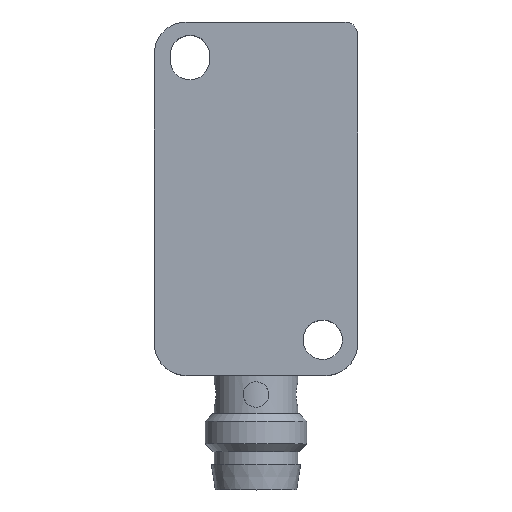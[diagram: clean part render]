
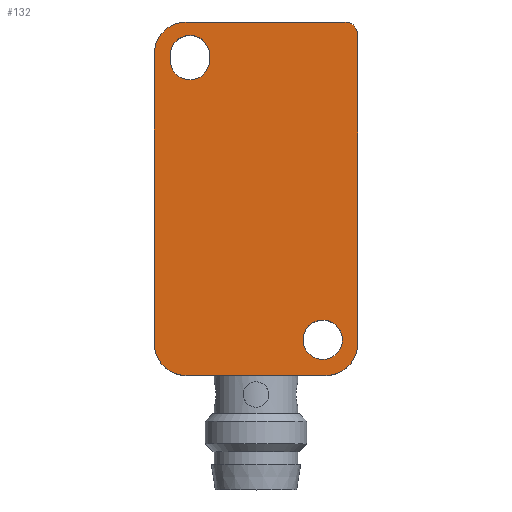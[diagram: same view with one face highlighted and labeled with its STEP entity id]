
A CAD part, top view. The second image highlights one B-rep face of the part: STEP entity #132.
In plain terms, the highlighted planar face has unit normal (0, 0, 1).
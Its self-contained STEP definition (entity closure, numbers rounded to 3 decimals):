
#132 = ADVANCED_FACE( '', ( #260, #261, #262 ), #263, .T. );
#260 = FACE_OUTER_BOUND( '', #390, .T. );
#261 = FACE_BOUND( '', #391, .T. );
#262 = FACE_BOUND( '', #392, .T. );
#263 = PLANE( '', #393 );
#390 = EDGE_LOOP( '', ( #819, #820, #821, #822, #823, #824, #825, #826 ) );
#391 = EDGE_LOOP( '', ( #827, #828 ) );
#392 = EDGE_LOOP( '', ( #829, #830, #831, #832 ) );
#393 = AXIS2_PLACEMENT_3D( '', #833, #834, #835 );
#819 = ORIENTED_EDGE( '', *, *, #969, .T. );
#820 = ORIENTED_EDGE( '', *, *, #948, .T. );
#821 = ORIENTED_EDGE( '', *, *, #952, .T. );
#822 = ORIENTED_EDGE( '', *, *, #955, .T. );
#823 = ORIENTED_EDGE( '', *, *, #958, .T. );
#824 = ORIENTED_EDGE( '', *, *, #961, .T. );
#825 = ORIENTED_EDGE( '', *, *, #964, .T. );
#826 = ORIENTED_EDGE( '', *, *, #967, .T. );
#827 = ORIENTED_EDGE( '', *, *, #837, .F. );
#828 = ORIENTED_EDGE( '', *, *, #945, .F. );
#829 = ORIENTED_EDGE( '', *, *, #943, .F. );
#830 = ORIENTED_EDGE( '', *, *, #934, .F. );
#831 = ORIENTED_EDGE( '', *, *, #938, .F. );
#832 = ORIENTED_EDGE( '', *, *, #941, .F. );
#833 = CARTESIAN_POINT( '', ( 0., 0., 5.1 ) );
#834 = DIRECTION( '', ( 0., 0., 1. ) );
#835 = DIRECTION( '', ( 1., 0., 0. ) );
#837 = EDGE_CURVE( '', #970, #973, #974, .T. );
#934 = EDGE_CURVE( '', #1133, #1135, #1136, .T. );
#938 = EDGE_CURVE( '', #1140, #1133, #1142, .T. );
#941 = EDGE_CURVE( '', #1145, #1140, #1147, .T. );
#943 = EDGE_CURVE( '', #1135, #1145, #1149, .T. );
#945 = EDGE_CURVE( '', #973, #970, #1151, .T. );
#948 = EDGE_CURVE( '', #1157, #1155, #1158, .T. );
#952 = EDGE_CURVE( '', #1155, #1162, #1164, .T. );
#955 = EDGE_CURVE( '', #1162, #1167, #1169, .T. );
#958 = EDGE_CURVE( '', #1167, #1172, #1174, .T. );
#961 = EDGE_CURVE( '', #1172, #1177, #1179, .T. );
#964 = EDGE_CURVE( '', #1177, #1182, #1184, .T. );
#967 = EDGE_CURVE( '', #1182, #1187, #1189, .T. );
#969 = EDGE_CURVE( '', #1187, #1157, #1191, .T. );
#970 = VERTEX_POINT( '', #1192 );
#973 = VERTEX_POINT( '', #1196 );
#974 = CIRCLE( '', #1197, 1.55 );
#1133 = VERTEX_POINT( '', #1670 );
#1135 = VERTEX_POINT( '', #1673 );
#1136 = LINE( '', #1674, #1675 );
#1140 = VERTEX_POINT( '', #1680 );
#1142 = CIRCLE( '', #1683, 1.55 );
#1145 = VERTEX_POINT( '', #1687 );
#1147 = LINE( '', #1690, #1691 );
#1149 = CIRCLE( '', #1693, 1.55 );
#1151 = CIRCLE( '', #1695, 1.55 );
#1155 = VERTEX_POINT( '', #1699 );
#1157 = VERTEX_POINT( '', #1702 );
#1158 = CIRCLE( '', #1703, 2.5 );
#1162 = VERTEX_POINT( '', #1709 );
#1164 = LINE( '', #1712, #1713 );
#1167 = VERTEX_POINT( '', #1716 );
#1169 = CIRCLE( '', #1719, 2.5 );
#1172 = VERTEX_POINT( '', #1723 );
#1174 = LINE( '', #1726, #1727 );
#1177 = VERTEX_POINT( '', #1730 );
#1179 = CIRCLE( '', #1733, 1. );
#1182 = VERTEX_POINT( '', #1737 );
#1184 = LINE( '', #1740, #1741 );
#1187 = VERTEX_POINT( '', #1744 );
#1189 = CIRCLE( '', #1747, 2.5 );
#1191 = LINE( '', #1750, #1751 );
#1192 = CARTESIAN_POINT( '', ( 6.8, 11.8, 5.1 ) );
#1196 = CARTESIAN_POINT( '', ( 3.7, 11.8, 5.1 ) );
#1197 = AXIS2_PLACEMENT_3D( '', #1753, #1754, #1755 );
#1670 = CARTESIAN_POINT( '', ( -3.65, 33.8, 5.1 ) );
#1673 = CARTESIAN_POINT( '', ( -3.65, 34.2, 5.1 ) );
#1674 = CARTESIAN_POINT( '', ( -3.65, 33.8, 5.1 ) );
#1675 = VECTOR( '', #1902, 1. );
#1680 = CARTESIAN_POINT( '', ( -6.75, 33.8, 5.1 ) );
#1683 = AXIS2_PLACEMENT_3D( '', #1908, #1909, #1910 );
#1687 = CARTESIAN_POINT( '', ( -6.75, 34.2, 5.1 ) );
#1690 = CARTESIAN_POINT( '', ( -6.75, 34.2, 5.1 ) );
#1691 = VECTOR( '', #1913, 1. );
#1693 = AXIS2_PLACEMENT_3D( '', #1917, #1918, #1919 );
#1695 = AXIS2_PLACEMENT_3D( '', #1923, #1924, #1925 );
#1699 = CARTESIAN_POINT( '', ( -5.5, 9., 5.1 ) );
#1702 = CARTESIAN_POINT( '', ( -8., 11.5, 5.1 ) );
#1703 = AXIS2_PLACEMENT_3D( '', #1930, #1931, #1932 );
#1709 = CARTESIAN_POINT( '', ( 5.5, 9., 5.1 ) );
#1712 = CARTESIAN_POINT( '', ( -5.5, 9., 5.1 ) );
#1713 = VECTOR( '', #1936, 1. );
#1716 = CARTESIAN_POINT( '', ( 8., 11.5, 5.1 ) );
#1719 = AXIS2_PLACEMENT_3D( '', #1941, #1942, #1943 );
#1723 = CARTESIAN_POINT( '', ( 8., 35.8, 5.1 ) );
#1726 = CARTESIAN_POINT( '', ( 8., 11.5, 5.1 ) );
#1727 = VECTOR( '', #1946, 1. );
#1730 = CARTESIAN_POINT( '', ( 7., 36.8, 5.1 ) );
#1733 = AXIS2_PLACEMENT_3D( '', #1951, #1952, #1953 );
#1737 = CARTESIAN_POINT( '', ( -5.5, 36.8, 5.1 ) );
#1740 = CARTESIAN_POINT( '', ( 7., 36.8, 5.1 ) );
#1741 = VECTOR( '', #1956, 1. );
#1744 = CARTESIAN_POINT( '', ( -8., 34.3, 5.1 ) );
#1747 = AXIS2_PLACEMENT_3D( '', #1961, #1962, #1963 );
#1750 = CARTESIAN_POINT( '', ( -8., 34.3, 5.1 ) );
#1751 = VECTOR( '', #1965, 1. );
#1753 = CARTESIAN_POINT( '', ( 5.25, 11.8, 5.1 ) );
#1754 = DIRECTION( '', ( 0., 0., 1. ) );
#1755 = DIRECTION( '', ( 1., 0., 0. ) );
#1902 = DIRECTION( '', ( 0., 1., 0. ) );
#1908 = CARTESIAN_POINT( '', ( -5.2, 33.8, 5.1 ) );
#1909 = DIRECTION( '', ( 0., 0., 1. ) );
#1910 = DIRECTION( '', ( -1., 0., 0. ) );
#1913 = DIRECTION( '', ( 0., -1., 0. ) );
#1917 = CARTESIAN_POINT( '', ( -5.2, 34.2, 5.1 ) );
#1918 = DIRECTION( '', ( 0., 0., 1. ) );
#1919 = DIRECTION( '', ( 1., 0., 0. ) );
#1923 = CARTESIAN_POINT( '', ( 5.25, 11.8, 5.1 ) );
#1924 = DIRECTION( '', ( 0., 0., 1. ) );
#1925 = DIRECTION( '', ( 1., 0., 0. ) );
#1930 = CARTESIAN_POINT( '', ( -5.5, 11.5, 5.1 ) );
#1931 = DIRECTION( '', ( 0., 0., 1. ) );
#1932 = DIRECTION( '', ( -1., 0., 0. ) );
#1936 = DIRECTION( '', ( 1., 0., 0. ) );
#1941 = CARTESIAN_POINT( '', ( 5.5, 11.5, 5.1 ) );
#1942 = DIRECTION( '', ( 0., 0., 1. ) );
#1943 = DIRECTION( '', ( 0., -1., 0. ) );
#1946 = DIRECTION( '', ( 0., 1., 0. ) );
#1951 = CARTESIAN_POINT( '', ( 7., 35.8, 5.1 ) );
#1952 = DIRECTION( '', ( 0., 0., 1. ) );
#1953 = DIRECTION( '', ( 1., 0., 0. ) );
#1956 = DIRECTION( '', ( -1., 0., 0. ) );
#1961 = CARTESIAN_POINT( '', ( -5.5, 34.3, 5.1 ) );
#1962 = DIRECTION( '', ( 0., 0., 1. ) );
#1963 = DIRECTION( '', ( 0., 1., 0. ) );
#1965 = DIRECTION( '', ( 0., -1., 0. ) );
